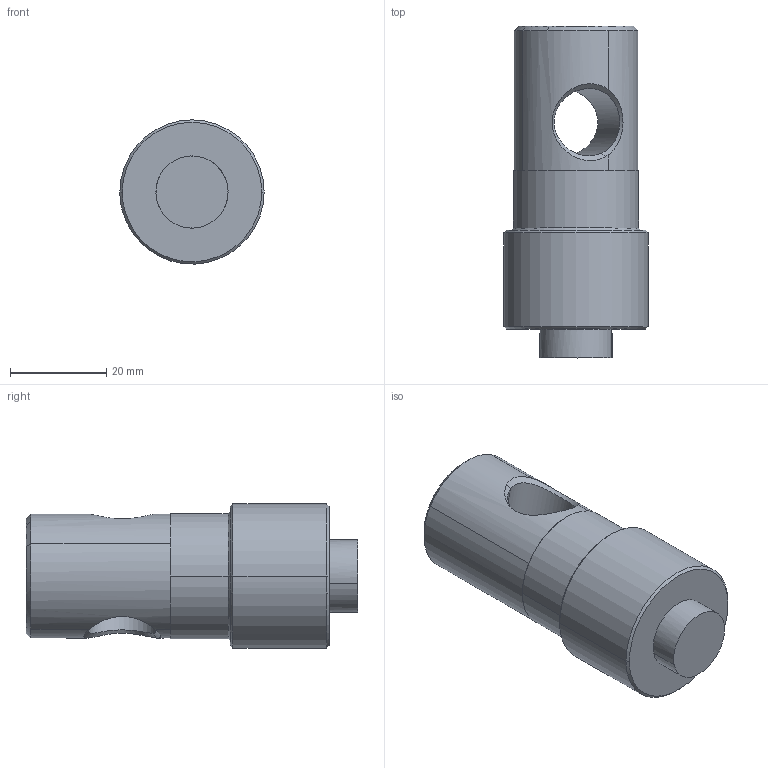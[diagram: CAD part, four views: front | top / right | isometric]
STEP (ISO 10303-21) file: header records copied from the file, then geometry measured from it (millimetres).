
FILE_DESCRIPTION(('CATIA V5 STEP Exchange'),'2;1');
FILE_NAME('C:\Users\Administrator\Desktop\SHT0014394.stp','2022-03-17T03:07:05+00:00',('none'),('none'),'CATIA Version 5 Release 20 GA (IN-10)','CATIA V5 STEP AP203','none');
FILE_SCHEMA(('CONFIG_CONTROL_DESIGN'));
Length unit declared in the file: millimetre
Products named in the file (1): SHT0011364
Bounding box: 30 x 69 x 29.99 mm (x, y, z)
Volume: 33957.6 mm3; surface area: 7637.7 mm2
Topology: 1 solids, 1 shells, 324 faces, 942 edges, 624 vertices
Faces by surface type: plane 296, cylinder 12, cone 12, bspline 4
Entity records: 10961 total; most frequent: CARTESIAN_POINT 2468, ORIENTED_EDGE 1884, DIRECTION 1532, EDGE_CURVE 942, VECTOR 890, LINE 890, VERTEX_POINT 624, AXIS2_PLACEMENT_3D 332
